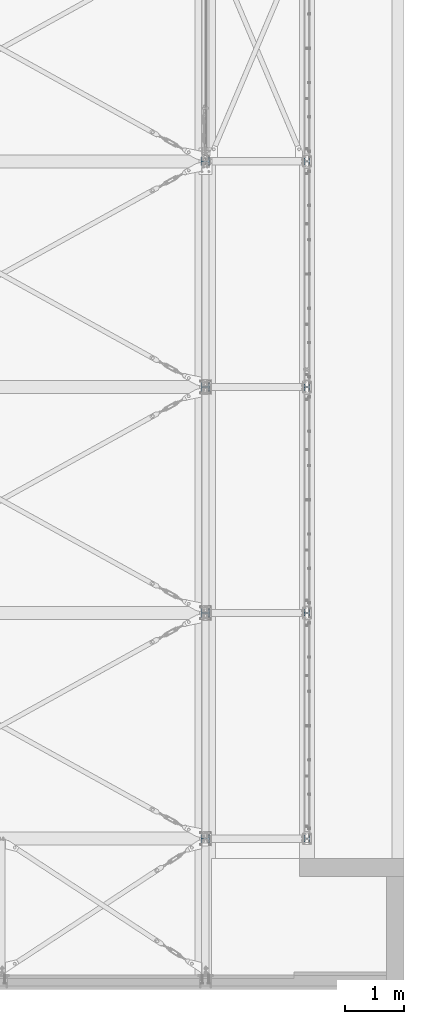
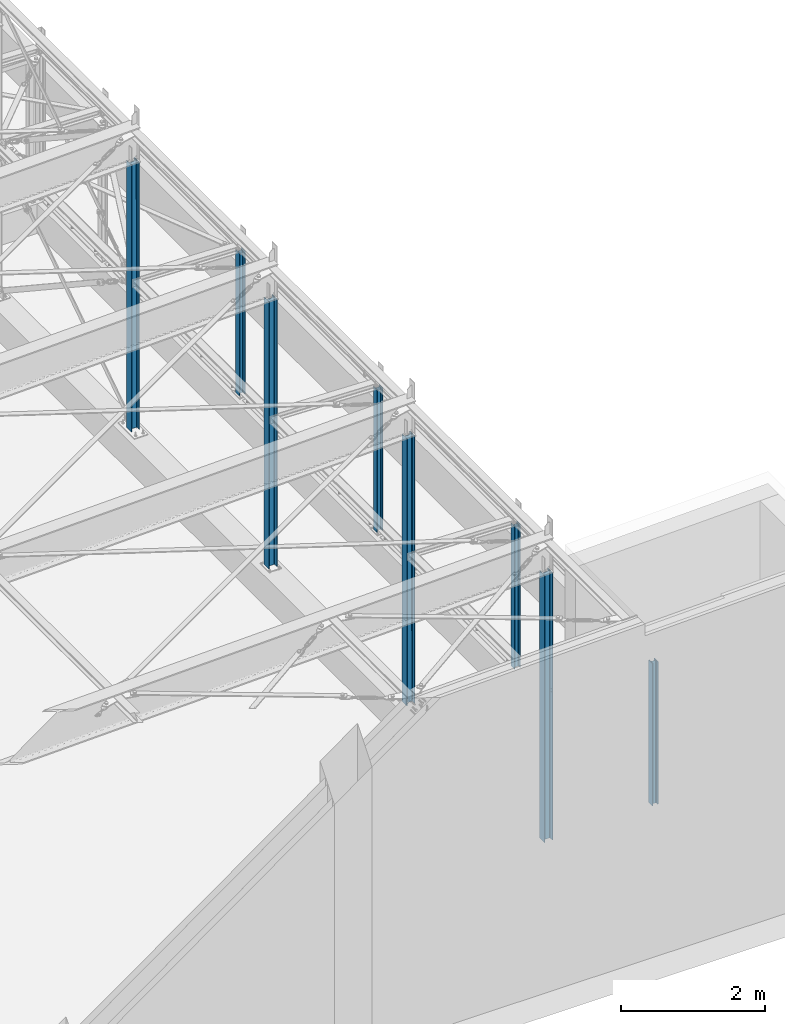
# One storey, part 2 of 476: 8 columns, 16 openings.
"""IFC2X3 building model written with IfcOpenShell, lengths in millimetres."""

from ifc_helpers import new_model, entity, si_unit, converted_unit, frame, origin, origin_with_axes, origin_2d, origin_2d_with_axis, place, context, project, spatial, circle, i_section, extrude, clip, halfspace, material, element, save


model = new_model("IFC2X3")

# Units and contexts
model_context = context("Model", 3, precision=1e-09, world=origin_with_axes())
ifc_project = project(units=[si_unit("LENGTHUNIT", "METRE", prefix="MILLI"), si_unit("AREAUNIT", "SQUARE_METRE"), si_unit("VOLUMEUNIT", "CUBIC_METRE"), converted_unit("PLANEANGLEUNIT", "DEGREE", entity("IfcPlaneAngleMeasure", 0.01745329), si_unit("PLANEANGLEUNIT", "RADIAN"), dimensions=[0, 0, 0, 0, 0, 0, 0])], contexts=[model_context])

# Site, building, storey
site_placement = place(None, origin_with_axes())
site = spatial("IfcSite", under=ifc_project, at=site_placement, Name="mKR Teilneubau & Sanierung BA1 - Ostfildern", CompositionType="ELEMENT")
building_placement = place(site_placement, origin_with_axes())
building = spatial("IfcBuilding", under=site, at=building_placement, Name="Struktur 1", CompositionType="ELEMENT")
storey_placement = place(building_placement, origin_with_axes())
storey = spatial("IfcBuildingStorey", under=building, at=storey_placement, Name="Default Storey", CompositionType="ELEMENT", Elevation=0.0)

# Column, openings
ifc_material = material(Name="S235JR")
column_1_placement = place(None, frame((21965.608764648, -17405.67387897, 403.448200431), z_axis=(0.0, 0.0, -1.0), x_axis=(0.0, 1.0, 0.0)))
column_1 = element("IfcColumn", 1, at=column_1_placement, inside=storey, material=ifc_material, Name="-", ObjectType="-", context=model_context, shape_type="Clipping", body=[
    clip(clip(extrude(i_section(OverallWidth=140.0, OverallDepth=133.0, WebThickness=5.5, FlangeThickness=8.5, FilletRadius=12.0, at=origin_2d()), origin(), (0.0, 0.0, -1.0), 5082.024663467), halfspace(frame((17405.67387897, -21965.608764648, -136.552799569), z_axis=(0.0, 0.0, -1.0), x_axis=(0.0, 1.0, 0.0)), True)), halfspace(frame((17405.67387897, -22097.990220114, -4001.117455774), z_axis=(0.0, 0.030041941, 0.999548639), x_axis=(1.0, 0.0, 0.0)), True)),
])
opening_1_placement = place(column_1_placement, frame((35.0, 57.5, -2687.182613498), z_axis=(0.0, 1.0, 0.0), x_axis=(1.0, 0.0, 0.0)))
element("IfcOpeningElement", 2, at=opening_1_placement, cuts=column_1, ObjectType="Opening", context=model_context, shape_type="SweptSolid", body=[
    extrude(circle(Radius=7.001, at=origin_2d_with_axis()), origin(), (0.0, 0.0, 1.0), 9.5),
])
opening_2_placement = place(column_1_placement, frame((-35.0, 57.5, -2687.182613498), z_axis=(0.0, 1.0, 0.0), x_axis=(-1.0, 0.0, 0.0)))
element("IfcOpeningElement", 3, at=opening_2_placement, cuts=column_1, ObjectType="Opening", context=model_context, shape_type="SweptSolid", body=[
    extrude(circle(Radius=7.001, at=origin_2d_with_axis()), origin(), (0.0, 0.0, 1.0), 9.5),
])
opening_3_placement = place(column_1_placement, frame((-35.0, 57.5, -2637.182613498), z_axis=(0.0, 1.0, 0.0), x_axis=(-1.0, 0.0, 0.0)))
element("IfcOpeningElement", 4, at=opening_3_placement, cuts=column_1, ObjectType="Opening", context=model_context, shape_type="SweptSolid", body=[
    extrude(circle(Radius=7.001, at=origin_2d_with_axis()), origin(), (0.0, 0.0, 1.0), 9.5),
])
opening_4_placement = place(column_1_placement, frame((35.0, 57.5, -2637.182613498), z_axis=(0.0, 1.0, 0.0), x_axis=(1.0, 0.0, 0.0)))
element("IfcOpeningElement", 5, at=opening_4_placement, cuts=column_1, ObjectType="Opening", context=model_context, shape_type="SweptSolid", body=[
    extrude(circle(Radius=7.001, at=origin_2d_with_axis()), origin(), (0.0, 0.0, 1.0), 9.5),
])

column_2_placement = place(None, frame((21965.608764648, -13585.67387897, 403.448200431), z_axis=(0.0, 0.0, -1.0), x_axis=(0.0, 1.0, 0.0)))
column_2 = element("IfcColumn", 6, at=column_2_placement, inside=storey, material=ifc_material, Name="-", ObjectType="-", context=model_context, shape_type="Clipping", body=[
    clip(clip(extrude(i_section(OverallWidth=140.0, OverallDepth=133.0, WebThickness=5.5, FlangeThickness=8.5, FilletRadius=12.0, at=origin_2d()), origin(), (0.0, 0.0, -1.0), 5082.024663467), halfspace(frame((13585.67387897, -21965.608764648, -136.552799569), z_axis=(0.0, 0.0, -1.0), x_axis=(0.0, 1.0, 0.0)), True)), halfspace(frame((13585.67387897, -22097.990220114, -4001.117455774), z_axis=(0.0, 0.030041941, 0.999548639), x_axis=(1.0, 0.0, 0.0)), True)),
])
opening_5_placement = place(column_2_placement, frame((35.0, 57.5, -2637.182613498), z_axis=(0.0, 1.0, 0.0), x_axis=(1.0, 0.0, 0.0)))
element("IfcOpeningElement", 7, at=opening_5_placement, cuts=column_2, ObjectType="Opening", context=model_context, shape_type="SweptSolid", body=[
    extrude(circle(Radius=7.001, at=origin_2d_with_axis()), origin(), (0.0, 0.0, 1.0), 9.5),
])
opening_6_placement = place(column_2_placement, frame((-35.0, 57.5, -2637.182613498), z_axis=(0.0, 1.0, 0.0), x_axis=(-1.0, 0.0, 0.0)))
element("IfcOpeningElement", 8, at=opening_6_placement, cuts=column_2, ObjectType="Opening", context=model_context, shape_type="SweptSolid", body=[
    extrude(circle(Radius=7.001, at=origin_2d_with_axis()), origin(), (0.0, 0.0, 1.0), 9.5),
])
opening_7_placement = place(column_2_placement, frame((35.0, 57.5, -2687.182613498), z_axis=(0.0, 1.0, 0.0), x_axis=(1.0, 0.0, 0.0)))
element("IfcOpeningElement", 9, at=opening_7_placement, cuts=column_2, ObjectType="Opening", context=model_context, shape_type="SweptSolid", body=[
    extrude(circle(Radius=7.001, at=origin_2d_with_axis()), origin(), (0.0, 0.0, 1.0), 9.5),
])
opening_8_placement = place(column_2_placement, frame((-35.0, 57.5, -2687.182613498), z_axis=(0.0, 1.0, 0.0), x_axis=(-1.0, 0.0, 0.0)))
element("IfcOpeningElement", 10, at=opening_8_placement, cuts=column_2, ObjectType="Opening", context=model_context, shape_type="SweptSolid", body=[
    extrude(circle(Radius=7.001, at=origin_2d_with_axis()), origin(), (0.0, 0.0, 1.0), 9.5),
])

column_3_placement = place(None, frame((21965.608764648, -9765.67387897, 403.448200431), z_axis=(0.0, 0.0, -1.0), x_axis=(0.0, 1.0, 0.0)))
column_3 = element("IfcColumn", 11, at=column_3_placement, inside=storey, material=ifc_material, Name="-", ObjectType="-", context=model_context, shape_type="Clipping", body=[
    clip(clip(extrude(i_section(OverallWidth=140.0, OverallDepth=133.0, WebThickness=5.5, FlangeThickness=8.5, FilletRadius=12.0, at=origin_2d()), origin(), (0.0, 0.0, -1.0), 5082.024663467), halfspace(frame((9765.67387897, -21965.608764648, -141.552799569), z_axis=(0.0, 0.0, -1.0), x_axis=(0.0, 1.0, 0.0)), True)), halfspace(frame((9765.67387897, -22097.990220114, -4001.117455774), z_axis=(0.0, 0.030041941, 0.999548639), x_axis=(1.0, 0.0, 0.0)), True)),
])
opening_9_placement = place(column_3_placement, frame((-35.0, 57.5, -2687.182613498), z_axis=(0.0, 1.0, 0.0), x_axis=(-1.0, 0.0, 0.0)))
element("IfcOpeningElement", 12, at=opening_9_placement, cuts=column_3, ObjectType="Opening", context=model_context, shape_type="SweptSolid", body=[
    extrude(circle(Radius=7.001, at=origin_2d_with_axis()), origin(), (0.0, 0.0, 1.0), 9.5),
])
opening_10_placement = place(column_3_placement, frame((35.0, 57.5, -2637.182613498), z_axis=(0.0, 1.0, 0.0), x_axis=(1.0, 0.0, 0.0)))
element("IfcOpeningElement", 13, at=opening_10_placement, cuts=column_3, ObjectType="Opening", context=model_context, shape_type="SweptSolid", body=[
    extrude(circle(Radius=7.001, at=origin_2d_with_axis()), origin(), (0.0, 0.0, 1.0), 9.5),
])
opening_11_placement = place(column_3_placement, frame((-35.0, 57.5, -2637.182613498), z_axis=(0.0, 1.0, 0.0), x_axis=(-1.0, 0.0, 0.0)))
element("IfcOpeningElement", 14, at=opening_11_placement, cuts=column_3, ObjectType="Opening", context=model_context, shape_type="SweptSolid", body=[
    extrude(circle(Radius=7.001, at=origin_2d_with_axis()), origin(), (0.0, 0.0, 1.0), 9.5),
])
opening_12_placement = place(column_3_placement, frame((35.0, 57.5, -2687.182613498), z_axis=(0.0, 1.0, 0.0), x_axis=(1.0, 0.0, 0.0)))
element("IfcOpeningElement", 15, at=opening_12_placement, cuts=column_3, ObjectType="Opening", context=model_context, shape_type="SweptSolid", body=[
    extrude(circle(Radius=7.001, at=origin_2d_with_axis()), origin(), (0.0, 0.0, 1.0), 9.5),
])

# Columns
column_4_placement = place(None, frame((23685.608764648, -21225.67387897, 430.689106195), z_axis=(0.0, 0.0, -1.0), x_axis=(0.0, 1.0, 0.0)))
element("IfcColumn", 16, at=column_4_placement, inside=storey, material=ifc_material, Name="-", ObjectType="-", context=model_context, shape_type="Clipping", body=[
    clip(extrude(i_section(OverallWidth=100.0, OverallDepth=96.0, WebThickness=5.0, FlangeThickness=8.0, FilletRadius=12.0, at=origin_2d()), origin(), (0.0, 0.0, -1.0), 2527.310893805), halfspace(frame((21225.67387897, -23685.608764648, -109.311893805), z_axis=(0.0, 0.0, -1.0), x_axis=(0.0, 1.0, 0.0)), True)),
])
column_5_placement = place(None, frame((23685.608764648, -13585.67387897, 430.689106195), z_axis=(0.0, 0.0, -1.0), x_axis=(0.0, 1.0, 0.0)))
element("IfcColumn", 17, at=column_5_placement, inside=storey, material=ifc_material, Name="-", ObjectType="-", context=model_context, shape_type="Clipping", body=[
    clip(extrude(i_section(OverallWidth=100.0, OverallDepth=96.0, WebThickness=5.0, FlangeThickness=8.0, FilletRadius=12.0, at=origin_2d()), origin(), (0.0, 0.0, -1.0), 2527.310893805), halfspace(frame((13585.67387897, -23685.608764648, -109.311893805), z_axis=(0.0, 0.0, -1.0), x_axis=(0.0, 1.0, 0.0)), True)),
])
column_6_placement = place(None, frame((23685.608764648, -17405.67387897, 430.689106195), z_axis=(0.0, 0.0, -1.0), x_axis=(0.0, 1.0, 0.0)))
element("IfcColumn", 18, at=column_6_placement, inside=storey, material=ifc_material, Name="-", ObjectType="-", context=model_context, shape_type="Clipping", body=[
    clip(clip(extrude(i_section(OverallWidth=100.0, OverallDepth=96.0, WebThickness=5.0, FlangeThickness=8.0, FilletRadius=12.0, at=origin_2d()), origin(), (0.0, 0.0, -1.0), 2608.621787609), halfspace(frame((17405.67387897, -23685.608764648, -109.311893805), z_axis=(0.0, 0.0, -1.0), x_axis=(0.0, 1.0, 0.0)), True)), halfspace(frame((17405.67387897, -23685.608764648, -2527.309893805), z_axis=(0.0, 0.0, 1.0), x_axis=(0.0, -1.0, 0.0)), True)),
])
column_7_placement = place(None, frame((23685.608764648, -9765.67387897, 430.689106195), z_axis=(0.0, 0.0, -1.0), x_axis=(0.0, 1.0, 0.0)))
element("IfcColumn", 19, at=column_7_placement, inside=storey, material=ifc_material, Name="-", ObjectType="-", context=model_context, shape_type="Clipping", body=[
    clip(extrude(i_section(OverallWidth=100.0, OverallDepth=96.0, WebThickness=5.0, FlangeThickness=8.0, FilletRadius=12.0, at=origin_2d()), origin(), (0.0, 0.0, -1.0), 2527.310893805), halfspace(frame((9765.67387897, -23685.608764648, -109.311893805), z_axis=(0.0, 0.0, -1.0), x_axis=(0.0, 1.0, 0.0)), True)),
])

# Column, openings
column_8_placement = place(None, frame((21965.608764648, -21225.67387897, 403.448200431), z_axis=(0.0, 0.0, -1.0), x_axis=(0.0, 1.0, 0.0)))
column_8 = element("IfcColumn", 20, at=column_8_placement, inside=storey, material=ifc_material, Name="-", ObjectType="-", context=model_context, shape_type="Clipping", body=[
    clip(clip(extrude(i_section(OverallWidth=140.0, OverallDepth=133.0, WebThickness=5.5, FlangeThickness=8.5, FilletRadius=12.0, at=origin_2d()), origin(), (0.0, 0.0, -1.0), 5082.024663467), halfspace(frame((21225.67387897, -21965.608764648, -136.552799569), z_axis=(0.0, 0.0, -1.0), x_axis=(0.0, 1.0, 0.0)), True)), halfspace(frame((21225.67387897, -22097.990220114, -4001.117455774), z_axis=(0.0, 0.030041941, 0.999548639), x_axis=(1.0, 0.0, 0.0)), True)),
])
opening_13_placement = place(column_8_placement, frame((35.0, 57.5, -2687.182613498), z_axis=(0.0, 1.0, 0.0), x_axis=(1.0, 0.0, 0.0)))
element("IfcOpeningElement", 21, at=opening_13_placement, cuts=column_8, ObjectType="Opening", context=model_context, shape_type="SweptSolid", body=[
    extrude(circle(Radius=7.001, at=origin_2d_with_axis()), origin(), (0.0, 0.0, 1.0), 9.5),
])
opening_14_placement = place(column_8_placement, frame((-35.0, 57.5, -2687.182613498), z_axis=(0.0, 1.0, 0.0), x_axis=(-1.0, 0.0, 0.0)))
element("IfcOpeningElement", 22, at=opening_14_placement, cuts=column_8, ObjectType="Opening", context=model_context, shape_type="SweptSolid", body=[
    extrude(circle(Radius=7.001, at=origin_2d_with_axis()), origin(), (0.0, 0.0, 1.0), 9.5),
])
opening_15_placement = place(column_8_placement, frame((35.0, 57.5, -2637.182613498), z_axis=(0.0, 1.0, 0.0), x_axis=(1.0, 0.0, 0.0)))
element("IfcOpeningElement", 23, at=opening_15_placement, cuts=column_8, ObjectType="Opening", context=model_context, shape_type="SweptSolid", body=[
    extrude(circle(Radius=7.001, at=origin_2d_with_axis()), origin(), (0.0, 0.0, 1.0), 9.5),
])
opening_16_placement = place(column_8_placement, frame((-35.0, 57.5, -2637.182613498), z_axis=(0.0, 1.0, 0.0), x_axis=(-1.0, 0.0, 0.0)))
element("IfcOpeningElement", 24, at=opening_16_placement, cuts=column_8, ObjectType="Opening", context=model_context, shape_type="SweptSolid", body=[
    extrude(circle(Radius=7.001, at=origin_2d_with_axis()), origin(), (0.0, 0.0, 1.0), 9.5),
])

save(model, "model.ifc")
